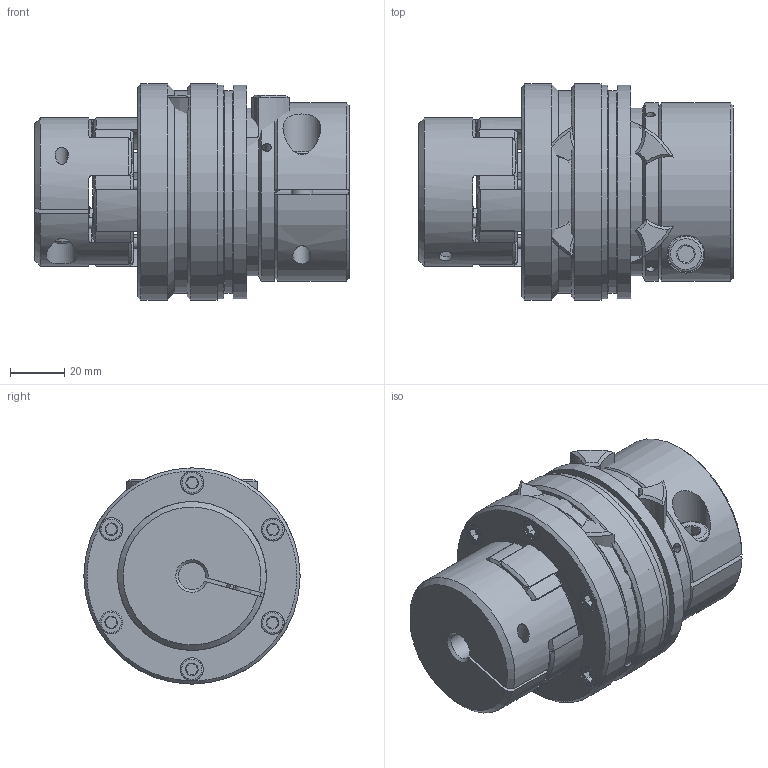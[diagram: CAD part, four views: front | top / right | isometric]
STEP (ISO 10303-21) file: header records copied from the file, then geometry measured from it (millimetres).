
FILE_DESCRIPTION( ( 'Unknown' ), '1' );
FILE_NAME( 'C:/Dokumente und Einstellungen/Sven/Desktop/hp kbk/E-KK/KBK EKK-24-105.stp', 'Unknown', ( 'Unknown' ), ( 'Unknown' ), 'XStep 1.0', 'Unknown', ' ' );
FILE_SCHEMA( ( 'automotive_design' ) );
Length unit declared in the file: millimetre
Products named in the file (17): Assem1; Assem2; ball_bearing_-_6007_0_01; ball_bearing_-_6007_0_02; ball_bearing_-_6007_0_03; Stellring 60; Druckring 60; Flansch 60; a_35; Elastomerflansch 24; Zahnkranz_24_Standard; ISO EN DIN 4762_M5x20; KBK L-K-60 Grundkörper; Klemmnabe 60; KBE 2C - 24_Nabe_0; ISO EN DIN 4762 M6x18; ISO EN DIN 4762 M8x25
Bounding box: 116.3 x 80 x 80 mm (x, y, z)
Volume: 711794.9 mm3; surface area: 262088.7 mm2
Topology: 38 solids, 38 shells, 1002 faces, 2163 edges, 1315 vertices
Faces by surface type: cone 329, cylinder 310, plane 294, torus 69
Full cylindrical faces by diameter (mm): 2.5 x4, 3.242 x6, 4 x22, 4.134 x12, 5 x11, 5.2 x12, 6 x4, 6.5 x2, 6.647 x2, 7 x2, 8 x4, 8.5 x21, 10 x2, 11.5 x2, 13 x2, 14 x2, 15 x2, 27 x4, 30 x2, 32 x2, 33 x2, 35 x7, 43.7 x6, 44 x2, 46 x4, 46.5 x2, 53.6 x6, 55 x2, 61.3 x2, 62 x7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
Entity records: 12714 total; most frequent: CARTESIAN_POINT 3135, DIRECTION 2038, ORIENTED_EDGE 1628, AXIS2_PLACEMENT_3D 946, EDGE_CURVE 814, EDGE_LOOP 637, VERTEX_POINT 557, FACE_OUTER_BOUND 532
